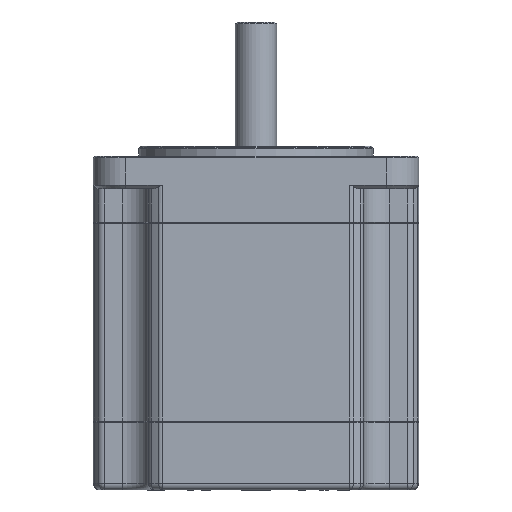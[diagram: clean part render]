
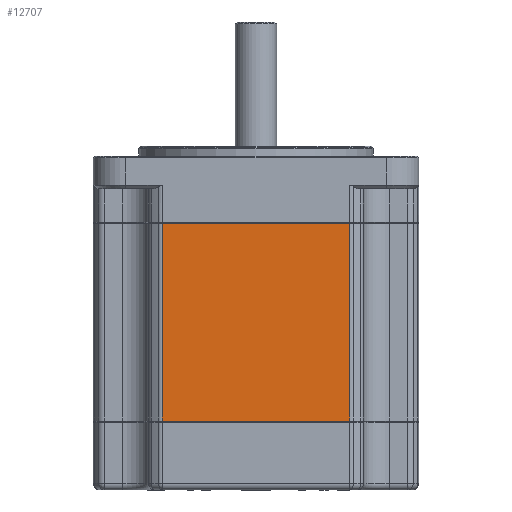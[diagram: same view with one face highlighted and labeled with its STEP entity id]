
A CAD part, front view. The second image highlights one B-rep face of the part: STEP entity #12707.
In plain terms, the highlighted planar face has unit normal (0, -1, 0).
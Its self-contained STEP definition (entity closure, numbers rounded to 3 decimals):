
#1955 = EDGE_LOOP ( 'NONE', ( #7179, #7184, #7182, #7185 ) ) ;
#3319 = VERTEX_POINT ( 'NONE', #16629 ) ;
#3321 = VERTEX_POINT ( 'NONE', #16628 ) ;
#3324 = VERTEX_POINT ( 'NONE', #16627 ) ;
#3325 = VERTEX_POINT ( 'NONE', #16626 ) ;
#3685 = CARTESIAN_POINT ( 'NONE',  ( 14.422, -25., -10.4 ) ) ;
#3686 = DIRECTION ( 'NONE',  ( -1., 0., 0. ) ) ;
#3730 = CARTESIAN_POINT ( 'NONE',  ( -14.422, -25., -40.9 ) ) ;
#3732 = DIRECTION ( 'NONE',  ( 0., 0., 1. ) ) ;
#3734 = CARTESIAN_POINT ( 'NONE',  ( 14.422, -25., -40.7 ) ) ;
#3737 = DIRECTION ( 'NONE',  ( 1., 0., 0. ) ) ;
#3765 = CARTESIAN_POINT ( 'NONE',  ( 14.422, -25., -40.9 ) ) ;
#3767 = DIRECTION ( 'NONE',  ( 0., 0., 1. ) ) ;
#4436 = VECTOR ( 'NONE', #3686, 1000. ) ;
#4445 = VECTOR ( 'NONE', #3732, 1000. ) ;
#4447 = VECTOR ( 'NONE', #3737, 1000. ) ;
#4452 = VECTOR ( 'NONE', #3767, 1000. ) ;
#5168 = AXIS2_PLACEMENT_3D ( 'NONE', #7152, #7154, #7156 ) ;
#7150 = PLANE ( 'NONE',  #5168 ) ;
#7152 = CARTESIAN_POINT ( 'NONE',  ( 14.422, -25., -40.9 ) ) ;
#7154 = DIRECTION ( 'NONE',  ( 0., 1., 0. ) ) ;
#7156 = DIRECTION ( 'NONE',  ( 0., 0., 1. ) ) ;
#7179 = ORIENTED_EDGE ( 'NONE', *, *, #9698, .F. ) ;
#7182 = ORIENTED_EDGE ( 'NONE', *, *, #9704, .T. ) ;
#7184 = ORIENTED_EDGE ( 'NONE', *, *, #9699, .T. ) ;
#7185 = ORIENTED_EDGE ( 'NONE', *, *, #9691, .T. ) ;
#9691 = EDGE_CURVE ( 'NONE', #3324, #3319, #15865, .T. ) ;
#9698 = EDGE_CURVE ( 'NONE', #3321, #3319, #15872, .T. ) ;
#9699 = EDGE_CURVE ( 'NONE', #3321, #3325, #15873, .T. ) ;
#9704 = EDGE_CURVE ( 'NONE', #3325, #3324, #15878, .T. ) ;
#10384 = FACE_OUTER_BOUND ( 'NONE', #1955, .T. ) ;
#12707 = ADVANCED_FACE ( 'NONE', ( #10384 ), #7150, .F. ) ;
#15865 = LINE ( 'NONE', #3685, #4436 ) ;
#15872 = LINE ( 'NONE', #3730, #4445 ) ;
#15873 = LINE ( 'NONE', #3734, #4447 ) ;
#15878 = LINE ( 'NONE', #3765, #4452 ) ;
#16626 = CARTESIAN_POINT ( 'NONE',  ( 14.422, -25., -40.7 ) ) ;
#16627 = CARTESIAN_POINT ( 'NONE',  ( 14.422, -25., -10.4 ) ) ;
#16628 = CARTESIAN_POINT ( 'NONE',  ( -14.422, -25., -40.7 ) ) ;
#16629 = CARTESIAN_POINT ( 'NONE',  ( -14.422, -25., -10.4 ) ) ;
